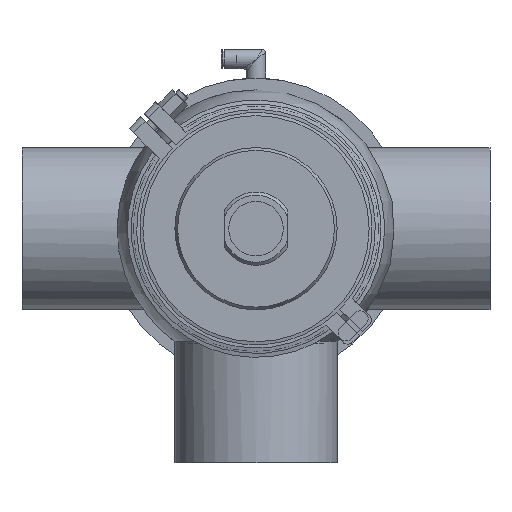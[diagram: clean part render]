
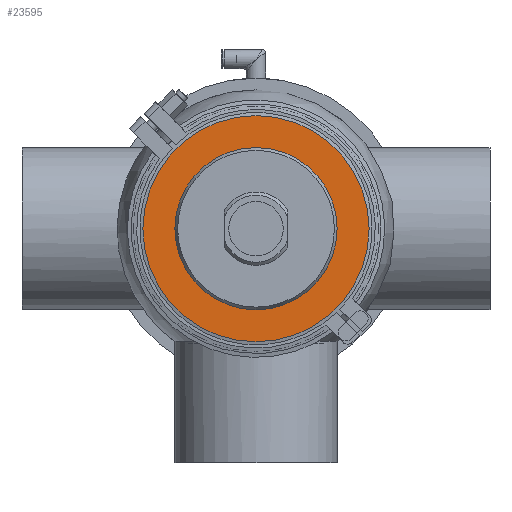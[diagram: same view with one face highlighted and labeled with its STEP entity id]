
A CAD part, front view. The second image highlights one B-rep face of the part: STEP entity #23595.
In plain terms, the highlighted planar face has unit normal (0, -1, 0).
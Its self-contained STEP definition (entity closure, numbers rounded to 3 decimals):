
#2678 = ORIENTED_EDGE ( 'NONE', *, *, #20007, .F. ) ;
#4493 = AXIS2_PLACEMENT_3D ( 'NONE', #10772, #25364, #35209 ) ;
#6204 = EDGE_LOOP ( 'NONE', ( #2678 ) ) ;
#7137 = CARTESIAN_POINT ( 'NONE',  ( 0., -13., 72.5 ) ) ;
#9065 = EDGE_CURVE ( 'NONE', #52276, #52276, #47011, .T. ) ;
#10772 = CARTESIAN_POINT ( 'NONE',  ( 0., -13., 0. ) ) ;
#20007 = EDGE_CURVE ( 'NONE', #40770, #40770, #55696, .T. ) ;
#23595 = ADVANCED_FACE ( 'NONE', ( #45058, #31100 ), #60605, .T. ) ;
#25364 = DIRECTION ( 'NONE',  ( 0., 1., 0. ) ) ;
#25392 = DIRECTION ( 'NONE',  ( 0., 0., 1. ) ) ;
#26682 = CARTESIAN_POINT ( 'NONE',  ( -72.5, -13., 0. ) ) ;
#30143 = DIRECTION ( 'NONE',  ( 0., 1., 0. ) ) ;
#31100 = FACE_OUTER_BOUND ( 'NONE', #6204, .T. ) ;
#31733 = DIRECTION ( 'NONE',  ( 0., -1., 0. ) ) ;
#33312 = AXIS2_PLACEMENT_3D ( 'NONE', #26682, #31733, #46005 ) ;
#35209 = DIRECTION ( 'NONE',  ( 0., 0., 1. ) ) ;
#35232 = CARTESIAN_POINT ( 'NONE',  ( 0., -13., 0. ) ) ;
#40770 = VERTEX_POINT ( 'NONE', #7137 ) ;
#42152 = EDGE_LOOP ( 'NONE', ( #48371 ) ) ;
#45058 = FACE_BOUND ( 'NONE', #42152, .T. ) ;
#46005 = DIRECTION ( 'NONE',  ( 0., 0., -1. ) ) ;
#47011 = CIRCLE ( 'NONE', #4493, 52. ) ;
#47564 = AXIS2_PLACEMENT_3D ( 'NONE', #35232, #30143, #25392 ) ;
#48371 = ORIENTED_EDGE ( 'NONE', *, *, #9065, .T. ) ;
#52276 = VERTEX_POINT ( 'NONE', #62431 ) ;
#55696 = CIRCLE ( 'NONE', #47564, 72.5 ) ;
#60605 = PLANE ( 'NONE',  #33312 ) ;
#62431 = CARTESIAN_POINT ( 'NONE',  ( 0., -13., 52. ) ) ;
